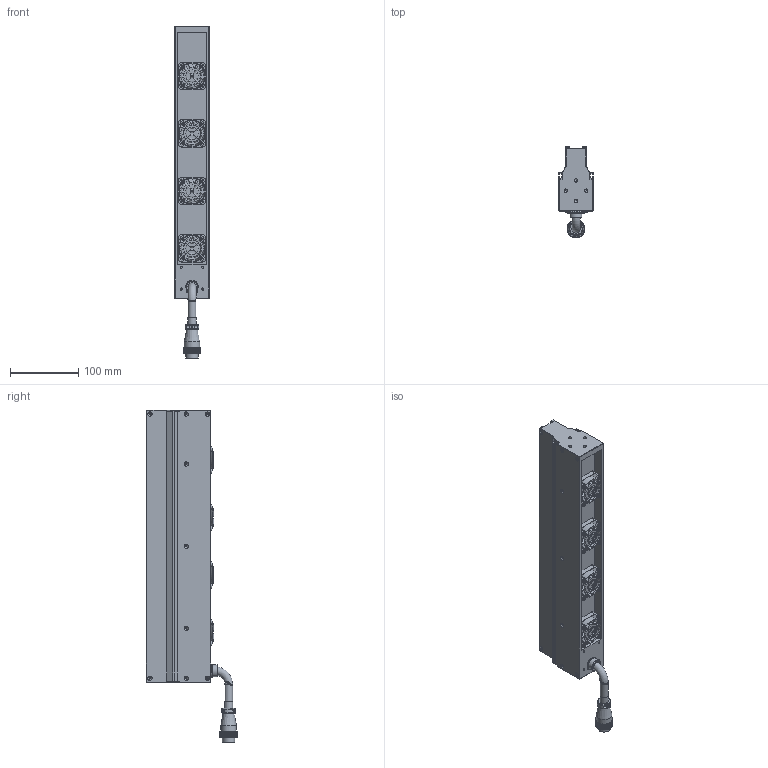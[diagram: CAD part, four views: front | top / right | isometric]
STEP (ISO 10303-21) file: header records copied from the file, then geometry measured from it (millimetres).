
FILE_DESCRIPTION (( 'STEP AP203' ), '1' );
FILE_NAME ('OPT-LSS398-W-V3.1尨砩芞.STEP', '2025-01-21T01:58:30', ( 'USER' ), ( '' ), 'SwSTEP 2.0', 'SolidWorks 2016', '' );
FILE_SCHEMA (( 'CONFIG_CONTROL_DESIGN' ));
Products named in the file (2): OPT-LSS398-W-V3.1尨砩芞
Bounding box: 50 x 133 x 485.1 mm (x, y, z)
Volume: 1357527.3 mm3; surface area: 223100.9 mm2
Topology: 21 solids, 29 shells, 2738 faces, 7011 edges, 4432 vertices
Faces by surface type: bspline 1051, cylinder 815, plane 589, torus 232, cone 51
Full cylindrical faces by diameter (mm): 1 x2, 1.1 x2, 1.4 x2, 1.6 x16, 2 x4, 2.5 x22, 3 x4, 3.2 x20, 3.4 x18, 3.5 x4, 5 x8, 6.2 x16, 8 x1, 11.6 x1, 11.7 x3, 12 x1, 15 x1, 15.9 x1, 17.5 x1, 18 x1, 18.5 x1, 22.8 x1, 24 x1, 24.8 x4, 38 x4
Entity records: 103302 total; most frequent: CARTESIAN_POINT 48968, ORIENTED_EDGE 13290, DIRECTION 7205, EDGE_CURVE 6645, VERTEX_POINT 4349, B_SPLINE_CURVE_WITH_KNOTS 4077, EDGE_LOOP 3156, AXIS2_PLACEMENT_3D 2956
